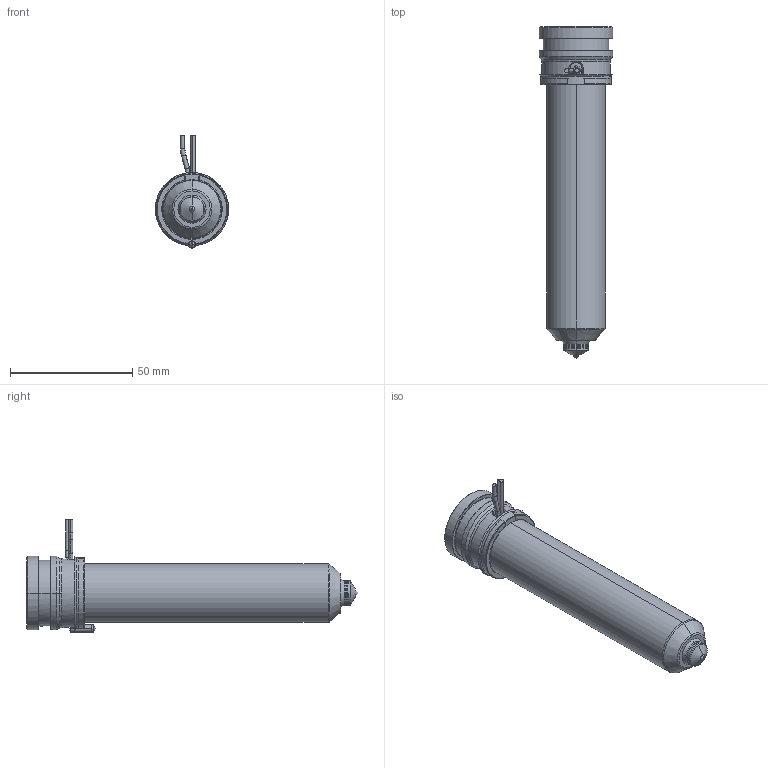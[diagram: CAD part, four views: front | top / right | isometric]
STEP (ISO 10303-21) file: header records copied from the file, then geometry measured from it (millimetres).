
FILE_DESCRIPTION((''),'2;1');
FILE_NAME('MPN-10-29-TS10-116-A','2026-02-05T12:33:13',('UPTIO'),('Thermoplay S.p.A.'),'CREO PARAMETRIC BY PTC INC, 2023494','CREO PARAMETRIC BY PTC INC, 2023494','');
FILE_SCHEMA(('CONFIG_CONTROL_DESIGN','SHAPE_APPEARANCE_LAYERS_GROUPS'));
Length unit declared in the file: millimetre
Products named in the file (1): MPN-10-29-TS10-116-A
Bounding box: 30 x 136 x 46 mm (x, y, z)
Volume: 42994.9 mm3; surface area: 42984.7 mm2
Topology: 2 solids, 3 shells, 552 faces, 1455 edges, 898 vertices
Faces by surface type: cylinder 180, plane 145, bspline 78, torus 68, cone 66, sphere 11, extrusion 4
Entity records: 28276 total; most frequent: CARTESIAN_POINT 11897, ORIENTED_EDGE 2894, DIRECTION 2651, EDGE_CURVE 1447, AXIS2_PLACEMENT_3D 1051, VERTEX_POINT 898, EDGE_LOOP 581, CIRCLE 580
